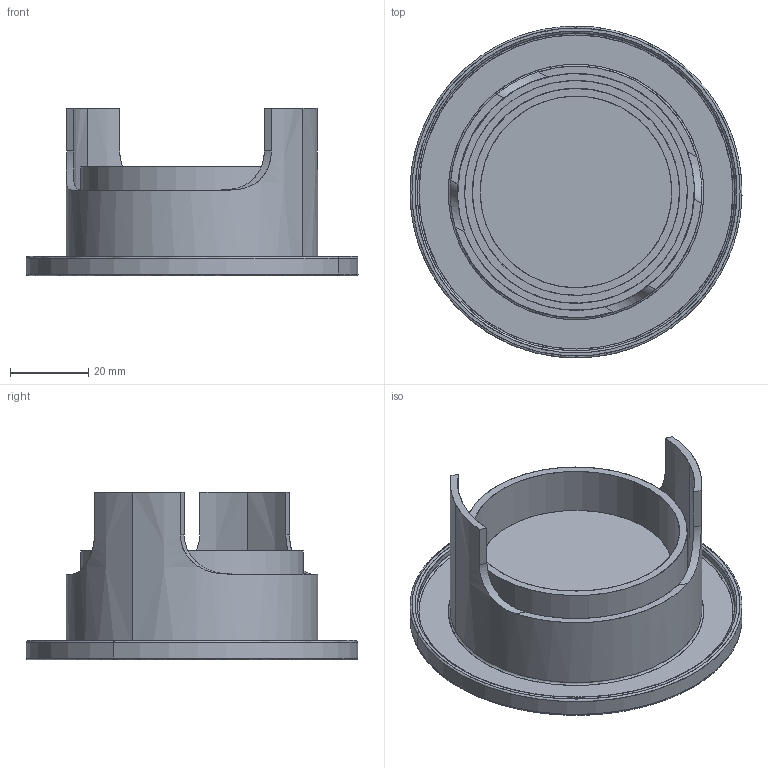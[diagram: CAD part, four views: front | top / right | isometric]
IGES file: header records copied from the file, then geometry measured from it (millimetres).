
Start section: SolidWorks IGES file using analytic representation for surfaces
Global section: file name: Y:\PRODUKT\Modele_3D_WWW\ACRE\ACRE PM.IGS; native system: SolidWorks 2023; preprocessor: SolidWorks 2023; author: anna.bielnik; date: 240412.081542; units: millimetre
Bounding box: 84.99 x 84.95 x 43 mm (x, y, z)
Surface area: 37581.7 mm2 (no closed solid volume)
Topology: 0 solids, 0 shells, 50 faces, 1416 edges, 1416 vertices
Faces by surface type: bspline 28, revolution 22
